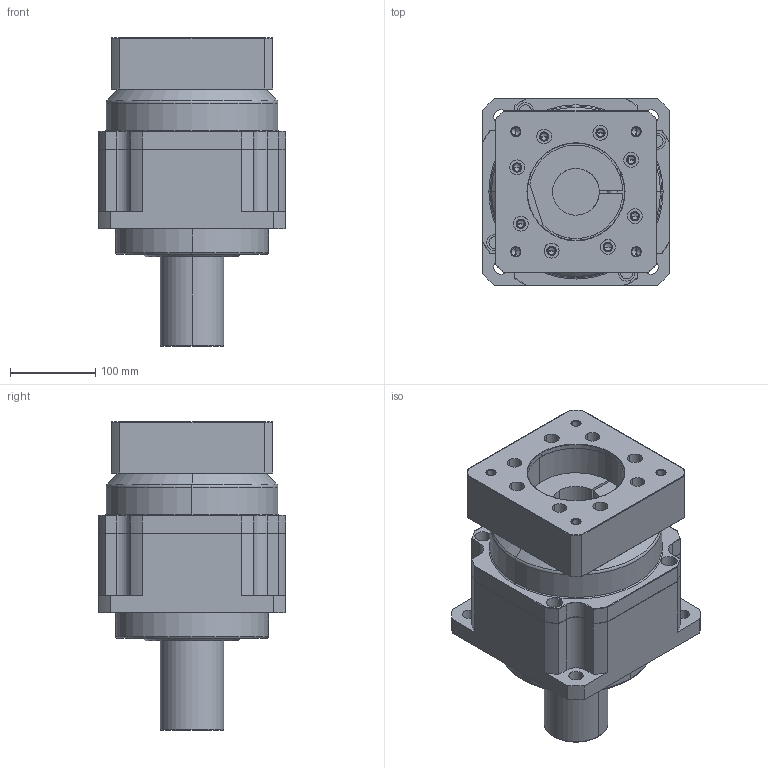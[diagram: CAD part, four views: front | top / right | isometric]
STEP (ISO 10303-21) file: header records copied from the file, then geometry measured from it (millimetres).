
FILE_DESCRIPTION((''),'2;1');
FILE_NAME('AF2201-P0403790008_ASM','2020-06-08T',('d03264'),(''),'PRO/ENGINEER BY PARAMETRIC TECHNOLOGY CORPORATION, 2015240','PRO/ENGINEER BY PARAMETRIC TECHNOLOGY CORPORATION, 2015240','');
FILE_SCHEMA(('CONFIG_CONTROL_DESIGN'));
Length unit declared in the file: millimetre
Products named in the file (4): AF2201; P1301700001; P0403790008; AF2201-P0403790008_ASM
Assembly tree (3 placements, depth 2):
  AF2201-P0403790008_ASM
    AF2201
    P1301700001
    P0403790008
Bounding box: 220 x 220 x 362.5 mm (x, y, z)
Volume: 8037387.3 mm3; surface area: 575126.3 mm2
Topology: 3 solids, 17 shells, 455 faces, 1070 edges, 647 vertices
Faces by surface type: cylinder 201, cone 108, plane 92, torus 54
Entity records: 13293 total; most frequent: DIRECTION 2500, CARTESIAN_POINT 2435, ORIENTED_EDGE 2030, EDGE_CURVE 1044, AXIS2_PLACEMENT_3D 1040, VERTEX_POINT 647, CIRCLE 572, EDGE_LOOP 549
